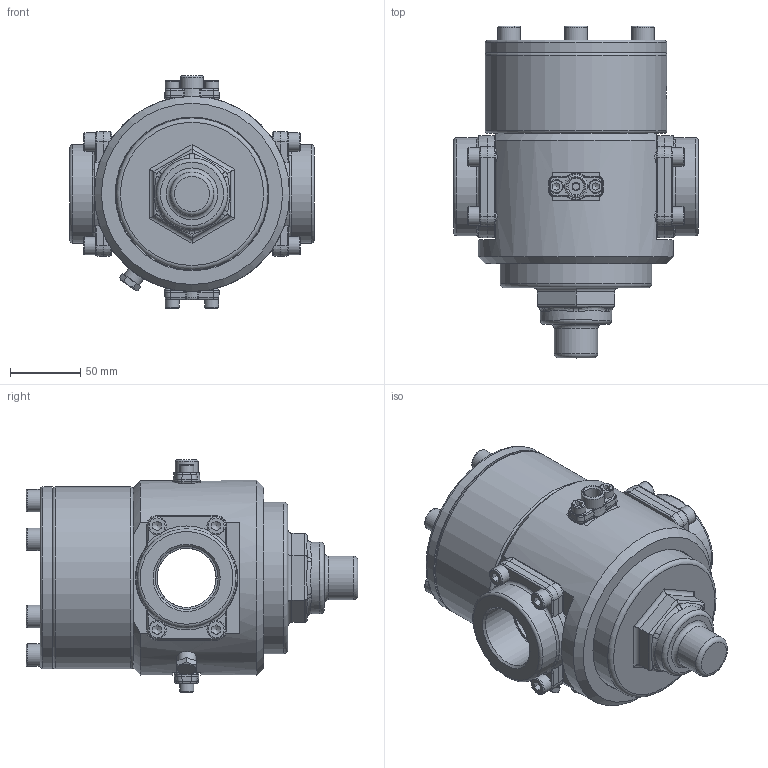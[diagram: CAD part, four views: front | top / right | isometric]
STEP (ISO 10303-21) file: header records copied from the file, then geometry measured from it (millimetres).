
FILE_DESCRIPTION(/* description */ (''),/* implementation_level */ '2;1');
FILE_NAME(/* name */ 'B-R120-12J2_02.step',/* time_stamp */ '2023-07-26T11:28:42+02:00',/* author */ (''),/* organization */ (''),/* preprocessor_version */ 'ST-DEVELOPER v20',/* originating_system */ 'Autodesk Translation Framework v12.9.0.99',/* authorisation */ '');
FILE_SCHEMA (('AUTOMOTIVE_DESIGN { 1 0 10303 214 3 1 1 }'));
Length unit declared in the file: millimetre
Products named in the file (20): (Nicht gespeichert); 0DC10624; 0DC10624_1; 0DC10624_2; 0DC10624_3; 0DC10624_4; 0DC10624_5; 0DC10513; 0DC10410; P20692; P34088; OR 18123; P37131; OR 13157; P51050; P26130; P34014; P37129; P37162; OR 07021
Assembly tree (32 placements, depth 2):
  (Nicht gespeichert)
    0DC10624
    0DC10624_1
    0DC10624_2
    0DC10624_3
    0DC10624_4
    0DC10624_5
    0DC10513  x8
    0DC10410  x4
    P20692
    P34088
    OR 18123
    P37131
    OR 13157  x2
    P51050
    P26130
    P34014
    P37129
    P37162  x2
    OR 07021  x2
Bounding box: 174 x 236.3 x 165.3 mm (x, y, z)
Volume: 1002602.4 mm3; surface area: 298758.6 mm2
Topology: 32 solids, 32 shells, 773 faces, 1931 edges, 1229 vertices
Faces by surface type: plane 288, cylinder 211, cone 116, torus 94, bspline 64
Full cylindrical faces by diameter (mm): 4.917 x4, 5.1 x2, 5.5 x1, 5.6 x1, 6 x4, 6.5 x4, 6.647 x8, 7.7 x2, 8 x8, 8.5 x8, 10 x10, 10.5 x6, 11 x1, 11.2 x2, 11.445 x3, 11.8 x1, 13 x8, 13.157 x1, 16 x6, 16.5 x1, 24 x1, 31 x1, 42 x1, 44.845 x2, 45 x1, 48 x1, 51 x1, 61.5 x2, 67.2 x2, 70 x2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
Entity records: 21589 total; most frequent: CARTESIAN_POINT 7537, DIRECTION 2837, ORIENTED_EDGE 2772, EDGE_CURVE 1386, AXIS2_PLACEMENT_3D 1177, VERTEX_POINT 886, EDGE_LOOP 644, CIRCLE 590
